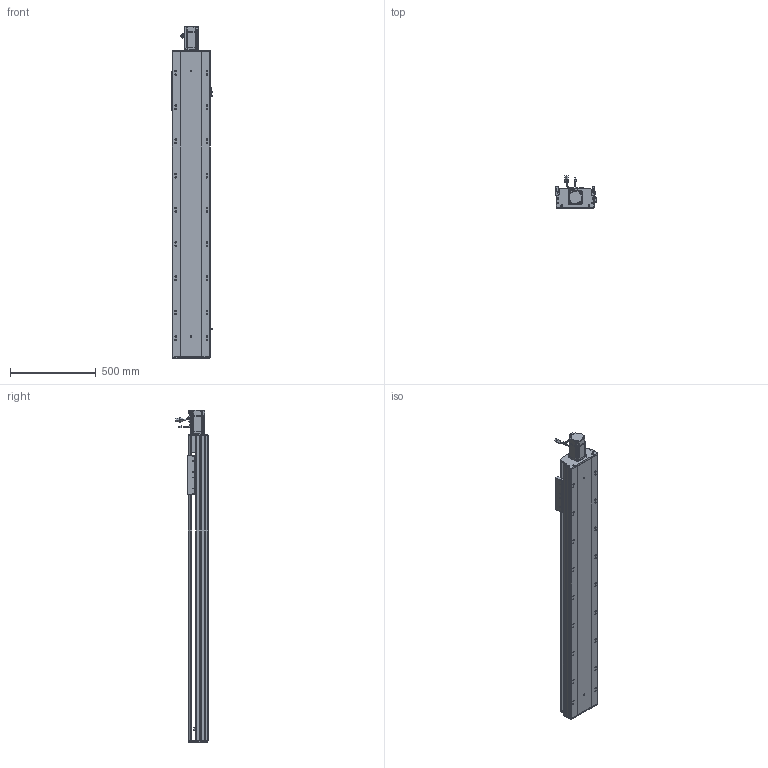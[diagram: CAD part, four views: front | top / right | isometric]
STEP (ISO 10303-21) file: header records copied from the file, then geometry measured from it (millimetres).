
FILE_DESCRIPTION (( 'STEP AP203' ), '1' );
FILE_NAME ('RY220-L2525-800-MK-邧嶺.SLDASM_1350.step', '2022-08-06T08:57:50', ( '' ), ( '' ), 'SwSTEP 2.0', 'SolidWorks 2016', '' );
FILE_SCHEMA (( 'CONFIG_CONTROL_DESIGN' ));
Length unit declared in the file: millimetre
Products named in the file (12): RY220綴裔啣; RY220电机支撑座FK20（PCD90M6）; 滅袉蝶18-12; 覜茼ん672; RY220ヶ裔啣; 滅袉蝶18-15; RY220菁釱MK-800-邧嶺_1350; RY220-俋离672覜茼んえ; RY220-L2525-800-MK-邧嶺.SLDASM_1350; RY220-800-奻裔啣-MK_1350; RY220半封闭25-32螺母铝滑块; 怢湛750W_ECMA-CX0807ES
Assembly tree (15 placements, depth 2):
  RY220-L2525-800-MK-邧嶺.SLDASM_1350
    RY220菁釱MK-800-邧嶺_1350
    RY220电机支撑座FK20（PCD90M6）
    怢湛750W_ECMA-CX0807ES
    滅袉蝶18-12  x2
    RY220ヶ裔啣
    RY220綴裔啣
    覜茼ん672  x3
    RY220半封闭25-32螺母铝滑块
    RY220-800-奻裔啣-MK_1350
    RY220-俋离672覜茼んえ
    滅袉蝶18-15  x2
Bounding box: 238.7 x 187.27 x 1940.3 mm (x, y, z)
Volume: 14814105.5 mm3; surface area: 4234146.4 mm2
Topology: 16 solids, 16 shells, 2310 faces, 6406 edges, 4030 vertices
Faces by surface type: cylinder 1056, plane 915, cone 277, bspline 36, sphere 16, torus 10
Entity records: 75976 total; most frequent: CARTESIAN_POINT 21497, ORIENTED_EDGE 11296, DIRECTION 10743, EDGE_CURVE 5648, AXIS2_PLACEMENT_3D 3799, VERTEX_POINT 3686, VECTOR 3145, LINE 3145
